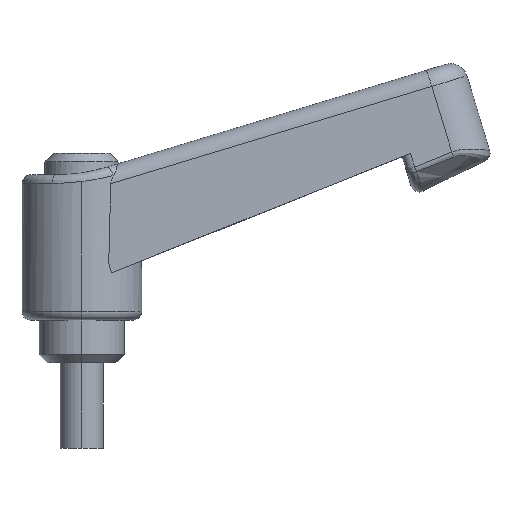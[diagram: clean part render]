
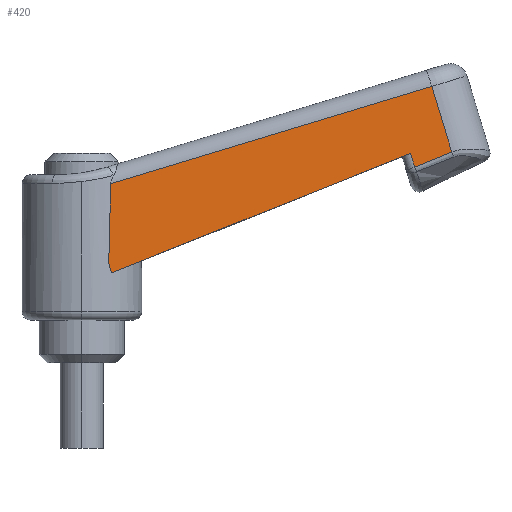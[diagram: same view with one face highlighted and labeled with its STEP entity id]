
A CAD part, top view. The second image highlights one B-rep face of the part: STEP entity #420.
In plain terms, the highlighted planar face has unit normal (0.04, 0.012, 0.999).
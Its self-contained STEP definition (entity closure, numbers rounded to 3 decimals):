
#12 = VECTOR ( 'NONE', #1805, 1000. ) ;
#22 = ORIENTED_EDGE ( 'NONE', *, *, #1384, .T. ) ;
#56 = PLANE ( 'NONE',  #373 ) ;
#61 = ORIENTED_EDGE ( 'NONE', *, *, #2115, .T. ) ;
#74 = DIRECTION ( 'NONE',  ( -0.956, -0.29, 0.042 ) ) ;
#76 = CARTESIAN_POINT ( 'NONE',  ( 38.97, 0.87, 4.676 ) ) ;
#86 =( BOUNDED_CURVE ( )  B_SPLINE_CURVE ( 3, ( #515, #584, #169, #507 ),
 .UNSPECIFIED., .F., .T. ) 
 B_SPLINE_CURVE_WITH_KNOTS ( ( 4, 4 ),
 ( 0.427, 0.465 ),
 .UNSPECIFIED. ) 
 CURVE ( )  GEOMETRIC_REPRESENTATION_ITEM ( )  RATIONAL_B_SPLINE_CURVE ( ( 1., 1., 1., 1. ) ) 
 REPRESENTATION_ITEM ( '' )  );
#87 = CARTESIAN_POINT ( 'NONE',  ( 43.301, 2.652, 4.48 ) ) ;
#88 = DIRECTION ( 'NONE',  ( -0.928, -0.371, 0.042 ) ) ;
#90 = EDGE_CURVE ( 'NONE', #2187, #1749, #86, .T. ) ;
#91 = CARTESIAN_POINT ( 'NONE',  ( 3.152, -10.391, 6.25 ) ) ;
#169 = CARTESIAN_POINT ( 'NONE',  ( 3.308, -4.295, 6.17 ) ) ;
#200 = CARTESIAN_POINT ( 'NONE',  ( 46.822, 5.845, 4.3 ) ) ;
#204 = CARTESIAN_POINT ( 'NONE',  ( 25.153, -2.819, 5.275 ) ) ;
#254 = EDGE_CURVE ( 'NONE', #684, #307, #1008, .T. ) ;
#307 = VERTEX_POINT ( 'NONE', #2027 ) ;
#373 = AXIS2_PLACEMENT_3D ( 'NONE', #200, #1475, #2304 ) ;
#420 = ADVANCED_FACE ( 'NONE', ( #1545 ), #56, .T. ) ;
#435 = CARTESIAN_POINT ( 'NONE',  ( 39.288, 1., 4.661 ) ) ;
#451 = ORIENTED_EDGE ( 'NONE', *, *, #1071, .F. ) ;
#507 = CARTESIAN_POINT ( 'NONE',  ( 3.385, -1.063, 6.127 ) ) ;
#515 = CARTESIAN_POINT ( 'NONE',  ( 3.152, -10.391, 6.25 ) ) ;
#572 = CARTESIAN_POINT ( 'NONE',  ( 38.97, 0.87, 4.676 ) ) ;
#584 = CARTESIAN_POINT ( 'NONE',  ( 3.231, -7.404, 6.21 ) ) ;
#628 = ORIENTED_EDGE ( 'NONE', *, *, #90, .F. ) ;
#642 = CARTESIAN_POINT ( 'NONE',  ( 41.964, 2.1, 4.541 ) ) ;
#684 = VERTEX_POINT ( 'NONE', #985 ) ;
#722 = VECTOR ( 'NONE', #74, 1000. ) ;
#739 = VECTOR ( 'NONE', #88, 1000. ) ;
#779 = VECTOR ( 'NONE', #993, 1000. ) ;
#822 = CARTESIAN_POINT ( 'NONE',  ( 50.545, -21.224, 4.48 ) ) ;
#854 = CARTESIAN_POINT ( 'NONE',  ( 3.385, -1.063, 6.127 ) ) ;
#926 = ORIENTED_EDGE ( 'NONE', *, *, #1300, .T. ) ;
#985 = CARTESIAN_POINT ( 'NONE',  ( 38.474, 2.507, 4.676 ) ) ;
#993 = DIRECTION ( 'NONE',  ( -0.29, 0.957, 0. ) ) ;
#1008 = LINE ( 'NONE', #204, #739 ) ;
#1016 = CARTESIAN_POINT ( 'NONE',  ( 38.999, 0.775, 4.676 ) ) ;
#1071 = EDGE_CURVE ( 'NONE', #307, #2187, #1940, .T. ) ;
#1110 = VERTEX_POINT ( 'NONE', #2125 ) ;
#1117 = VERTEX_POINT ( 'NONE', #572 ) ;
#1191 = LINE ( 'NONE', #2206, #722 ) ;
#1254 = ORIENTED_EDGE ( 'NONE', *, *, #254, .F. ) ;
#1300 = EDGE_CURVE ( 'NONE', #1110, #1749, #1191, .T. ) ;
#1352 = CARTESIAN_POINT ( 'NONE',  ( 39.076, 0.913, 4.671 ) ) ;
#1368 = VERTEX_POINT ( 'NONE', #87 ) ;
#1384 = EDGE_CURVE ( 'NONE', #684, #1117, #1968, .T. ) ;
#1475 = DIRECTION ( 'NONE',  ( 0.04, 0.012, 0.999 ) ) ;
#1514 = VECTOR ( 'NONE', #2239, 1000. ) ;
#1543 = CARTESIAN_POINT ( 'NONE',  ( 39.182, 0.957, 4.666 ) ) ;
#1545 = FACE_OUTER_BOUND ( 'NONE', #2217, .T. ) ;
#1723 = CARTESIAN_POINT ( 'NONE',  ( 40.626, 1.55, 4.601 ) ) ;
#1749 = VERTEX_POINT ( 'NONE', #854 ) ;
#1805 = DIRECTION ( 'NONE',  ( -0.29, 0.957, 0. ) ) ;
#1836 = B_SPLINE_CURVE_WITH_KNOTS ( 'NONE', 3,
 ( #76, #1352, #1543, #435, #1723, #642, #1895 ),
 .UNSPECIFIED., .F., .F.,
 ( 4, 3, 4 ),
 ( 0.001, 0.001, 0.006 ),
 .UNSPECIFIED. ) ;
#1895 = CARTESIAN_POINT ( 'NONE',  ( 43.301, 2.652, 4.48 ) ) ;
#1940 = LINE ( 'NONE', #1971, #12 ) ;
#1968 = LINE ( 'NONE', #1016, #1514 ) ;
#1971 = CARTESIAN_POINT ( 'NONE',  ( 2.672, -8.809, 6.25 ) ) ;
#1977 = ORIENTED_EDGE ( 'NONE', *, *, #2102, .T. ) ;
#2027 = CARTESIAN_POINT ( 'NONE',  ( 3.484, -11.483, 6.25 ) ) ;
#2102 = EDGE_CURVE ( 'NONE', #1117, #1368, #1836, .T. ) ;
#2115 = EDGE_CURVE ( 'NONE', #1368, #1110, #2169, .T. ) ;
#2125 = CARTESIAN_POINT ( 'NONE',  ( 40.969, 10.339, 4.48 ) ) ;
#2169 = LINE ( 'NONE', #822, #779 ) ;
#2187 = VERTEX_POINT ( 'NONE', #91 ) ;
#2206 = CARTESIAN_POINT ( 'NONE',  ( 45.081, 11.586, 4.3 ) ) ;
#2217 = EDGE_LOOP ( 'NONE', ( #61, #926, #628, #451, #1254, #22, #1977 ) ) ;
#2239 = DIRECTION ( 'NONE',  ( 0.29, -0.957, 0. ) ) ;
#2304 = DIRECTION ( 'NONE',  ( -0.29, 0.957, 0. ) ) ;
